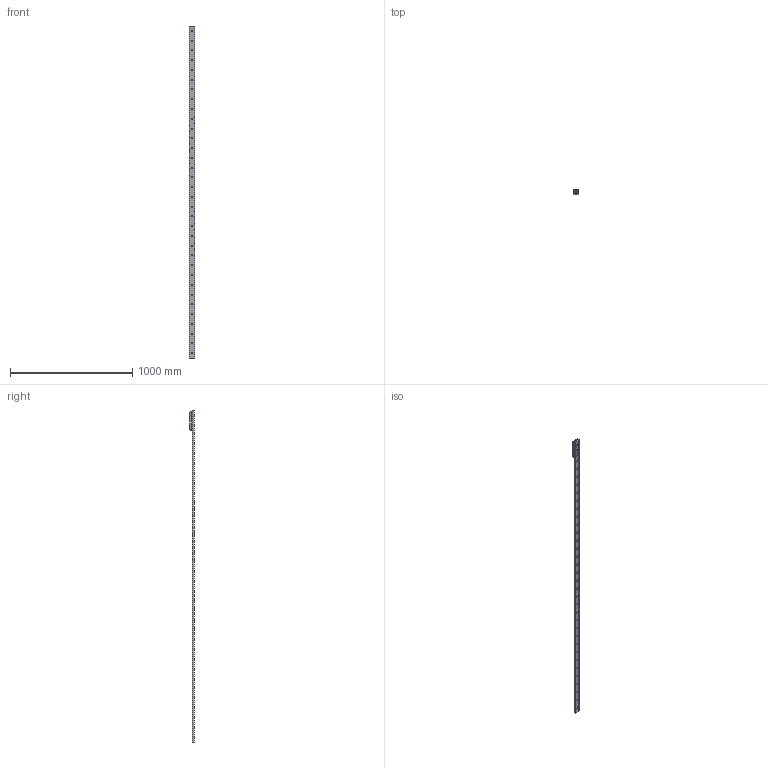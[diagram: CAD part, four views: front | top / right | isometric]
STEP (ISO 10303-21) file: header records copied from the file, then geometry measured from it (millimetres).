
FILE_DESCRIPTION( ( 'STEP AP214' ), '1' );
FILE_NAME( 'p:/temp/worker_11/temp/exporttempdir_1768_518_1pvYb/format_1/TGV-02720_1_RV43G-3.stp', '2021-05-14T19:20:03', ( 'License CC BY-ND 4.0' ), ( 'CADENAS' ), ' ', 'PARTsolutions', ' ' );
FILE_SCHEMA( ( 'AUTOMOTIVE_DESIGN { 1 0 10303 214 1 1 1 1 }' ) );
Length unit declared in the file: millimetre
Products named in the file (6): TGV-02720/1/RV43G-3; _TGV43-2720-(3-1); _RVG43-3-slider; _RGNV43R; _RGAV43R; _WR43G-01
Assembly tree (7 placements, depth 2):
  TGV-02720/1/RV43G-3
    _TGV43-2720-(3-1)
    _RVG43-3-slider
    _RGNV43R  x2
    _RGAV43R
    _WR43G-01  x2
Bounding box: 43 x 37 x 2720 mm (x, y, z)
Volume: 1116615.1 mm3; surface area: 449753.3 mm2
Topology: 7 solids, 7 shells, 1109 faces, 2894 edges, 1881 vertices
Faces by surface type: plane 663, cylinder 330, cone 73, bspline 34, torus 9
Full cylindrical faces by diameter (mm): 1.76 x4, 3 x8, 6 x4, 6.647 x4, 6.8 x3, 8 x3, 8.5 x34, 11 x11, 15 x6, 15.5 x1, 18.98 x2, 19 x1, 31.4 x6
Entity records: 26873 total; most frequent: CARTESIAN_POINT 4198, DIRECTION 3607, ORIENTED_EDGE 3268, EDGE_CURVE 1634, AXIS2_PLACEMENT_3D 1400, VERTEX_POINT 1153, EDGE_LOOP 1001, LINE 807
